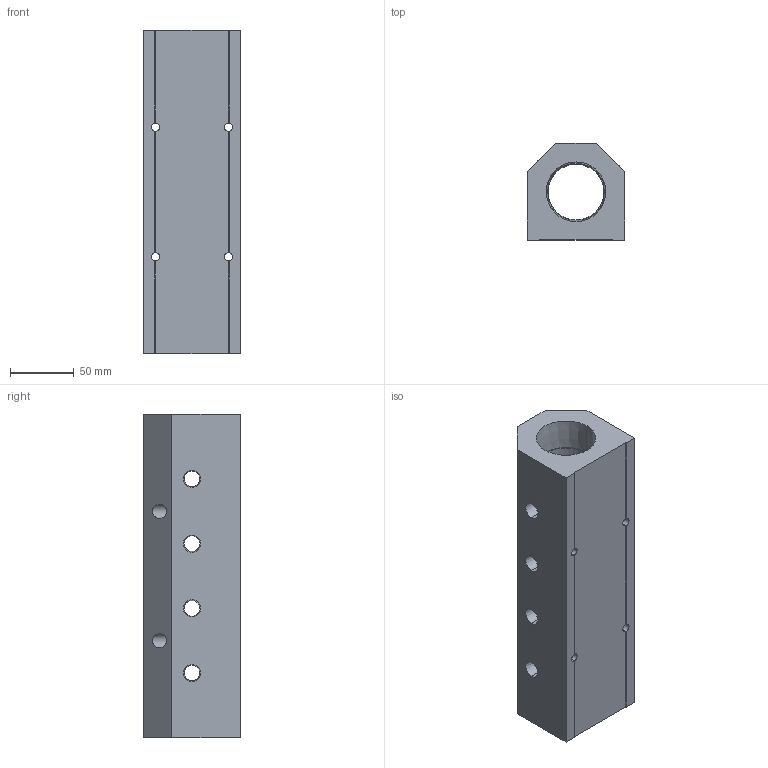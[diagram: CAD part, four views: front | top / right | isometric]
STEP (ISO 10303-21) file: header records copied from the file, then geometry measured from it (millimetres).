
FILE_DESCRIPTION (( 'STEP AP214' ), '1' );
FILE_NAME ('ALM4ACE-N4N24-254B.step', '2022-02-07T07:46:14', ( '' ), ( '' ), 'SwSTEP 2.0', 'SolidWorks 2020', '' );
FILE_SCHEMA (( 'AUTOMOTIVE_DESIGN' ));
Length unit declared in the file: millimetre
Products named in the file (1): ALM4ACE-N4N24-254B
Bounding box: 76.2 x 76.2 x 254 mm (x, y, z)
Volume: 913742.9 mm3; surface area: 123917.7 mm2
Topology: 1 solids, 1 shells, 339 faces, 909 edges, 598 vertices
Faces by surface type: plane 249, bspline 44, cone 28, cylinder 18
Entity records: 17751 total; most frequent: CARTESIAN_POINT 6319, ORIENTED_EDGE 1818, DIRECTION 1433, EDGE_CURVE 909, LINE 721, VECTOR 721, VERTEX_POINT 598, EDGE_LOOP 399
